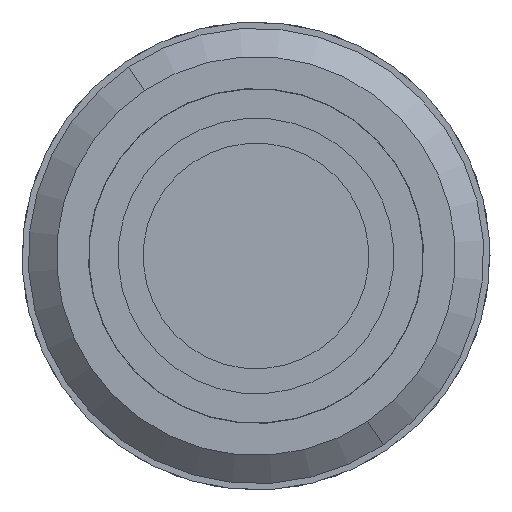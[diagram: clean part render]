
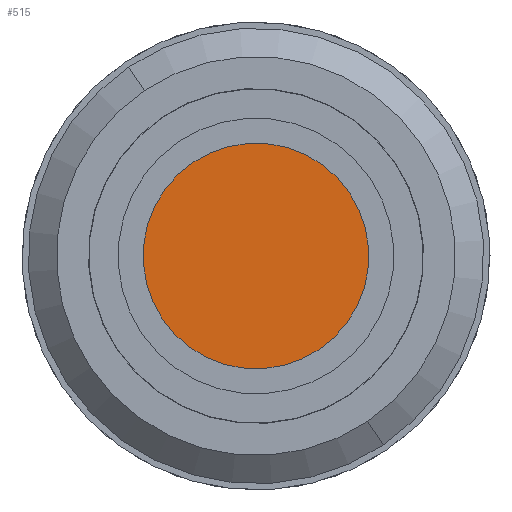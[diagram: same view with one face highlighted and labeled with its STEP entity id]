
A CAD part, left-side view. The second image highlights one B-rep face of the part: STEP entity #515.
In plain terms, the highlighted free-form (B-spline) face has degree [1, 1] with [2, 2] control points.
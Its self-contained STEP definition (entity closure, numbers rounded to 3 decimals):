
#515=ADVANCED_FACE('',(#1303),#1304,.T.);
#955=VERTEX_POINT('',#1771);
#959=VERTEX_POINT('',#1775);
#961=EDGE_CURVE('',#955,#959,#1777,.T.);
#965=EDGE_CURVE('',#959,#955,#1781,.T.);
#1303=FACE_OUTER_BOUND('',#3139,.T.);
#1304=B_SPLINE_SURFACE_WITH_KNOTS('',1,1,((#3140,#3141),(#3142,#3143)),.UNSPECIFIED.,.F.,.F.,.F.,(2,2),(2,2),(0.14,0.86),(0.14,0.86),.UNSPECIFIED.);
#1771=CARTESIAN_POINT('',(-15.4,7.542,11.197));
#1775=CARTESIAN_POINT('',(-15.4,-7.542,-11.197));
#1777=CIRCLE('',#3952,13.5);
#1781=CIRCLE('',#3959,13.5);
#3139=EDGE_LOOP('',(#4455,#4456));
#3140=CARTESIAN_POINT('',(-15.4,-5.793,-18.249));
#3141=CARTESIAN_POINT('',(-15.4,18.249,-5.793));
#3142=CARTESIAN_POINT('',(-15.4,-18.249,5.793));
#3143=CARTESIAN_POINT('',(-15.4,5.793,18.249));
#3952=AXIS2_PLACEMENT_3D('',#4801,#4802,#4803);
#3959=AXIS2_PLACEMENT_3D('',#4805,#4806,#4807);
#4455=ORIENTED_EDGE('',*,*,#965,.F.);
#4456=ORIENTED_EDGE('',*,*,#961,.F.);
#4801=CARTESIAN_POINT('',(-15.4,0.,0.));
#4802=DIRECTION('',(1.0,0.,0.));
#4803=DIRECTION('',(0.,0.559,0.829));
#4805=CARTESIAN_POINT('',(-15.4,0.,0.));
#4806=DIRECTION('',(1.0,0.,0.));
#4807=DIRECTION('',(0.,-0.559,-0.829));
